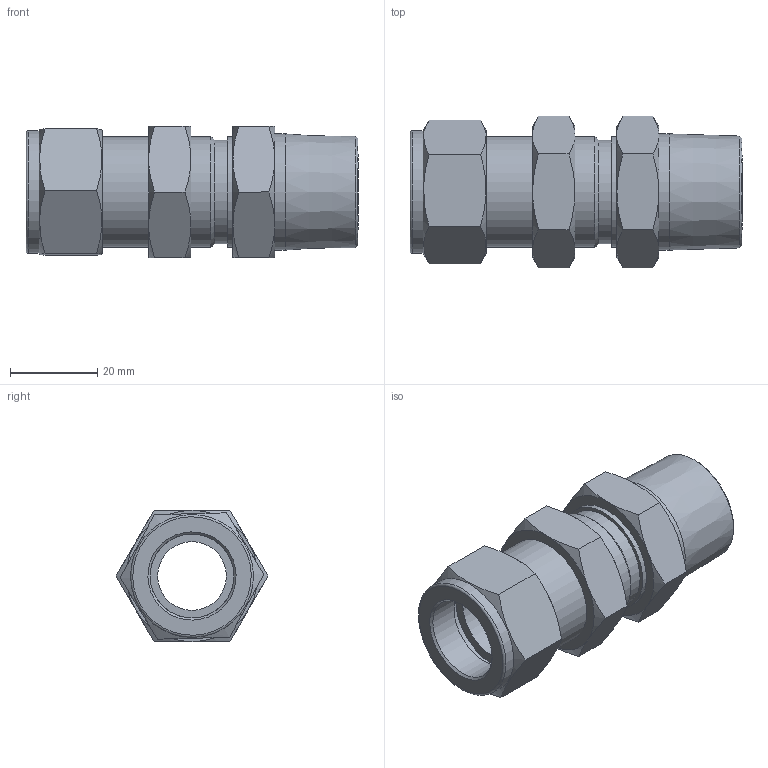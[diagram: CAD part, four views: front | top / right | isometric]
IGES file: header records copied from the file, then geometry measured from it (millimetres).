
Global section: file name: No Iges File Name specified; native system: Autodesk Inventor 2012; preprocessor: AutoDesk Inventor Iges Exporter R2012; author: 硅己绕,,1; organization: 1; date: 20150603.092639; units: millimetre
Bounding box: 76.19 x 34.83 x 30.16 mm (x, y, z)
Volume: 29623.4 mm3; surface area: 15952.5 mm2
Topology: 3 solids, 3 shells, 74 faces, 152 edges, 89 vertices
Faces by surface type: cone 30, plane 29, revolution 8, cylinder 6, torus 1
Full cylindrical faces by diameter (mm): 23.7 x1, 23.8 x1, 25.4 x2, 26.67 x1, 28.2 x1
